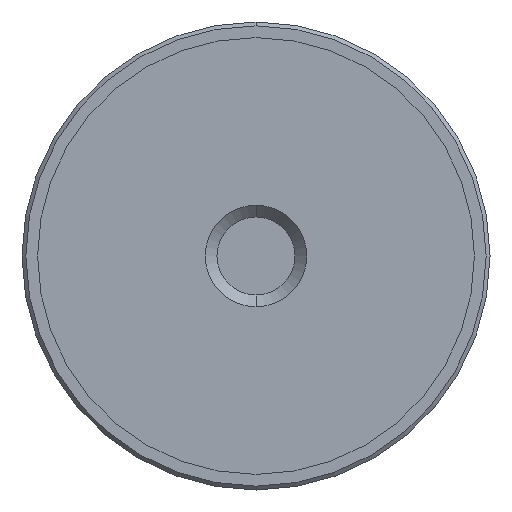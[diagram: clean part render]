
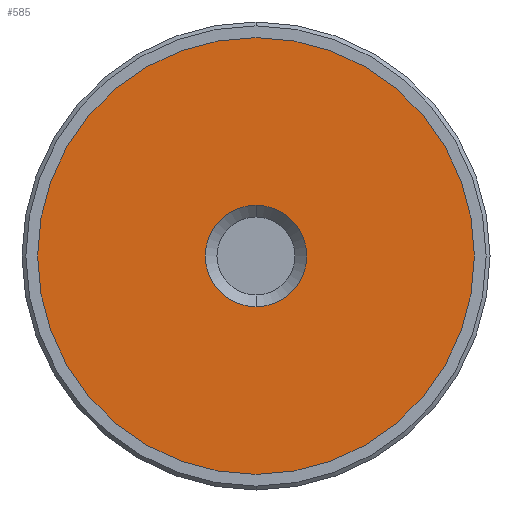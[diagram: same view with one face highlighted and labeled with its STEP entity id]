
A CAD part, front view. The second image highlights one B-rep face of the part: STEP entity #585.
In plain terms, the highlighted planar face has unit normal (0, -1, 0).
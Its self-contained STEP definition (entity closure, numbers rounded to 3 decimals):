
#7 = EDGE_LOOP ( 'NONE', ( #460, #147 ) ) ;
#35 = DIRECTION ( 'NONE',  ( 0., 1., 0. ) ) ;
#135 = DIRECTION ( 'NONE',  ( 0., 0., -1. ) ) ;
#140 = DIRECTION ( 'NONE',  ( 0., 0., -1. ) ) ;
#147 = ORIENTED_EDGE ( 'NONE', *, *, #584, .T. ) ;
#220 = FACE_OUTER_BOUND ( 'NONE', #471, .T. ) ;
#223 = CARTESIAN_POINT ( 'NONE',  ( 0., -1.5, 0. ) ) ;
#235 = CIRCLE ( 'NONE', #947, 6.5 ) ;
#238 = VERTEX_POINT ( 'NONE', #494 ) ;
#243 = CARTESIAN_POINT ( 'NONE',  ( 0., -1.5, 0. ) ) ;
#259 = AXIS2_PLACEMENT_3D ( 'NONE', #916, #1034, #1238 ) ;
#275 = DIRECTION ( 'NONE',  ( 0., 0., 1. ) ) ;
#361 = CARTESIAN_POINT ( 'NONE',  ( 0., -1.5, 6.5 ) ) ;
#365 = CARTESIAN_POINT ( 'NONE',  ( 0., -1.5, 0. ) ) ;
#407 = VERTEX_POINT ( 'NONE', #602 ) ;
#424 = CIRCLE ( 'NONE', #259, 28. ) ;
#425 = PLANE ( 'NONE',  #432 ) ;
#432 = AXIS2_PLACEMENT_3D ( 'NONE', #1020, #536, #808 ) ;
#460 = ORIENTED_EDGE ( 'NONE', *, *, #546, .T. ) ;
#471 = EDGE_LOOP ( 'NONE', ( #917, #665 ) ) ;
#475 = AXIS2_PLACEMENT_3D ( 'NONE', #365, #577, #275 ) ;
#494 = CARTESIAN_POINT ( 'NONE',  ( 0., -1.5, -28. ) ) ;
#536 = DIRECTION ( 'NONE',  ( 0., -1., 0. ) ) ;
#546 = EDGE_CURVE ( 'NONE', #407, #723, #1167, .T. ) ;
#577 = DIRECTION ( 'NONE',  ( 0., 1., 0. ) ) ;
#584 = EDGE_CURVE ( 'NONE', #723, #407, #235, .T. ) ;
#585 = ADVANCED_FACE ( 'NONE', ( #929, #220 ), #425, .T. ) ;
#602 = CARTESIAN_POINT ( 'NONE',  ( 0., -1.5, -6.5 ) ) ;
#651 = CIRCLE ( 'NONE', #475, 28. ) ;
#665 = ORIENTED_EDGE ( 'NONE', *, *, #671, .F. ) ;
#671 = EDGE_CURVE ( 'NONE', #238, #771, #424, .T. ) ;
#723 = VERTEX_POINT ( 'NONE', #361 ) ;
#771 = VERTEX_POINT ( 'NONE', #921 ) ;
#808 = DIRECTION ( 'NONE',  ( 0., 0., -1. ) ) ;
#810 = DIRECTION ( 'NONE',  ( 0., 1., 0. ) ) ;
#916 = CARTESIAN_POINT ( 'NONE',  ( 0., -1.5, 0. ) ) ;
#917 = ORIENTED_EDGE ( 'NONE', *, *, #940, .F. ) ;
#921 = CARTESIAN_POINT ( 'NONE',  ( 0., -1.5, 28. ) ) ;
#929 = FACE_BOUND ( 'NONE', #7, .T. ) ;
#940 = EDGE_CURVE ( 'NONE', #771, #238, #651, .T. ) ;
#947 = AXIS2_PLACEMENT_3D ( 'NONE', #223, #35, #135 ) ;
#995 = AXIS2_PLACEMENT_3D ( 'NONE', #243, #810, #140 ) ;
#1020 = CARTESIAN_POINT ( 'NONE',  ( 0., -1.5, 28. ) ) ;
#1034 = DIRECTION ( 'NONE',  ( 0., 1., 0. ) ) ;
#1167 = CIRCLE ( 'NONE', #995, 6.5 ) ;
#1238 = DIRECTION ( 'NONE',  ( 0., 0., 1. ) ) ;
